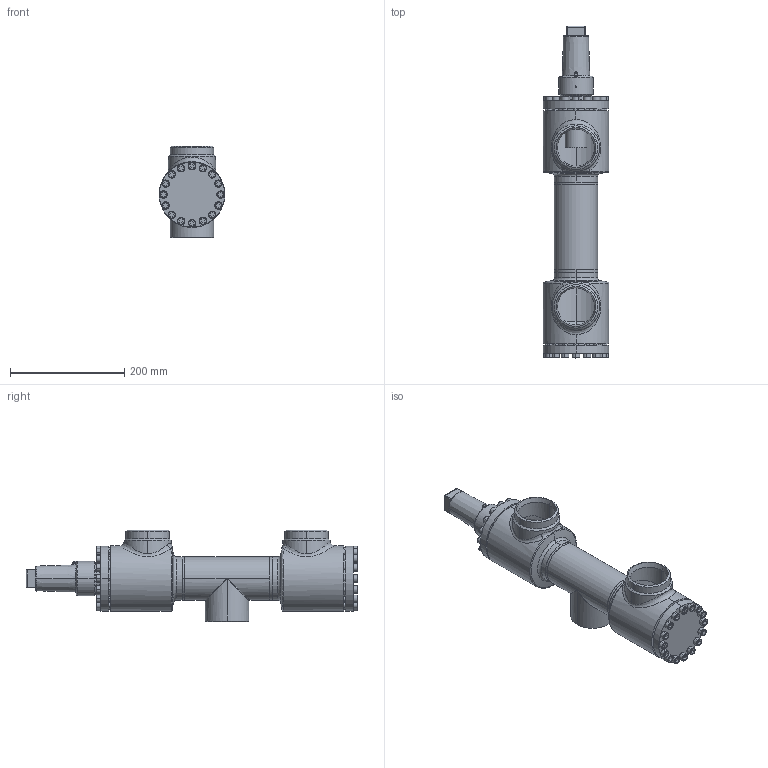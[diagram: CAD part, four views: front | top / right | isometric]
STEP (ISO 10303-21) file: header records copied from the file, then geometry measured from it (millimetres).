
FILE_DESCRIPTION (( 'STEP AP214' ), '1' );
FILE_NAME ('WVR24000D17-DN065_R1_PS40.STEP', '2010-09-08T08:23:08', ( 'Eckhard Grams' ), ( 'AWP Kälte Klima Armaturen GmbH' ), 'SwSTEP 2.0', 'SolidWorks 2002296', '' );
FILE_SCHEMA (( 'AUTOMOTIVE_DESIGN' ));
Length unit declared in the file: millimetre
Products named in the file (12): WVR24000D17-DN065_R1_PS40; WVB-R23000K17_Deck+Schr-DN65_Standard; Deckel23000K17-DN65_Standard; Kappe 16402-15_DN40-65 (M52x3)_Standard; Geh,kpl23000E17-DN065_R1_PS40_Standard; bead23000-17-1_Standard; bead23000-17-2_Standard; T-Stück DIN2615_DN 65; Gehäuse23000E17-DN065_R1_PS40_Standard; AVR26300K17_Deck+Schr-DN65_Standard; Deckel26300K17-DN65_Standard; Zylinderschraube-DIN912_M 8x  25
Assembly tree (43 placements, depth 3):
  WVR24000D17-DN065_R1_PS40
    Kappe 16402-15_DN40-65 (M52x3)_Standard
    AVR26300K17_Deck+Schr-DN65_Standard
      Zylinderschraube-DIN912_M 8x  25  x16
      Deckel26300K17-DN65_Standard
    Geh,kpl23000E17-DN065_R1_PS40_Standard
      T-Stück DIN2615_DN 65
      Gehäuse23000E17-DN065_R1_PS40_Standard  x2
      bead23000-17-2_Standard
      bead23000-17-1_Standard
    WVB-R23000K17_Deck+Schr-DN65_Standard
      Zylinderschraube-DIN912_M 8x  25  x16
      Deckel23000K17-DN65_Standard
Bounding box: 115 x 581 x 161 mm (x, y, z)
Volume: 1629082.2 mm3; surface area: 453942.6 mm2
Topology: 40 solids, 40 shells, 905 faces, 2009 edges, 1255 vertices
Faces by surface type: plane 373, cylinder 300, cone 119, torus 89, bspline 24
Entity records: 31415 total; most frequent: CARTESIAN_POINT 23196, DIRECTION 1649, ORIENTED_EDGE 1450, EDGE_CURVE 725, AXIS2_PLACEMENT_3D 702, VERTEX_POINT 452, EDGE_LOOP 397, CIRCLE 372
